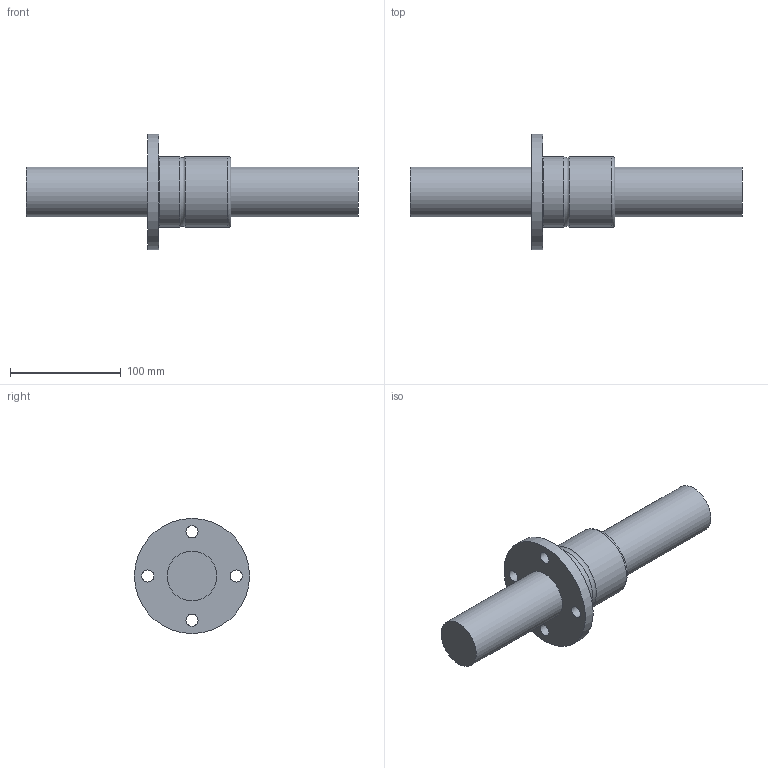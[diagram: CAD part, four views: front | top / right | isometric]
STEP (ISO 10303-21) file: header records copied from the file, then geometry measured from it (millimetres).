
FILE_DESCRIPTION((''),'2;1');
FILE_NAME('D:\製品 (図面)\カタログ用3D\ネジ関連\STEP形式\TMF-OH\TMF45-OH.stp','2010-06-02T15:16:07',('Tsuchiya'),(''),'Autodesk Inventor 10','Autodesk Inventor 10','');
FILE_SCHEMA(('AUTOMOTIVE_DESIGN { 1 0 10303 214 1 1 1 1 }'));
Length unit declared in the file: millimetre
Products named in the file (3): TMF45-OH; TMF45-OH1; TMF45-OH2
Assembly tree (2 placements, depth 2):
  TMF45-OH
    TMF45-OH1
    TMF45-OH2
Bounding box: 300 x 104 x 104 mm (x, y, z)
Volume: 647052 mm3; surface area: 86867.2 mm2
Topology: 2 solids, 2 shells, 18 faces, 40 edges, 27 vertices
Faces by surface type: cylinder 10, plane 5, bspline 2, torus 1
Full cylindrical faces by diameter (mm): 4 x1, 11 x4, 45 x2, 64 x2, 104 x1
Entity records: 723 total; most frequent: CARTESIAN_POINT 300, DIRECTION 82, ORIENTED_EDGE 44, EDGE_LOOP 44, AXIS2_PLACEMENT_3D 41, FACE_BOUND 26, VERTEX_POINT 22, EDGE_CURVE 22
